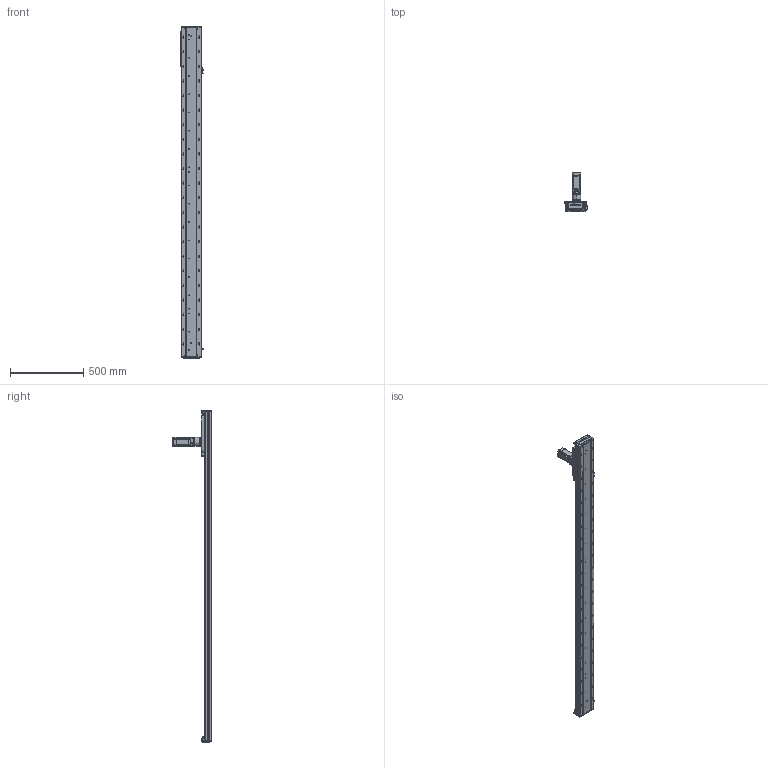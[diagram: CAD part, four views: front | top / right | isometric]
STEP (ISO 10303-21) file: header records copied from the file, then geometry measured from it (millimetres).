
FILE_DESCRIPTION (( 'STEP AP203' ), '1' );
FILE_NAME ('RY140-C-250-UK.SLDASM_1900.step', '2022-03-12T01:59:52', ( '' ), ( '' ), 'SwSTEP 2.0', 'SolidWorks 2016', '' );
FILE_SCHEMA (( 'CONFIG_CONTROL_DESIGN' ));
Length unit declared in the file: millimetre
Products named in the file (12): RY140-絳寢EGH15-300-MK_1900; 15; 覜茼ん672; RY140-喘沭賑輸; RY140-C-250-UK.SLDASM_1900; 絳寢賑輸EGH15; RY140-喘謫萇儂覃誹啣; 60ZDF珨撰俋倛芞T1 200W M4; RY140-300齿条模组型材底座_1900; RY120外置感应片(140共用）; RY140-喘沭裔啣; 140蚥薯蝶輸
Assembly tree (21 placements, depth 2):
  RY140-C-250-UK.SLDASM_1900
    RY140-300齿条模组型材底座_1900
    RY140-絳寢EGH15-300-MK_1900  x2
    絳寢賑輸EGH15  x6
    RY140-喘沭裔啣  x2
    覜茼ん672  x3
    RY140-喘沭賑輸
    RY120外置感应片(140共用）
    RY140-喘謫萇儂覃誹啣
    140蚥薯蝶輸  x2
    60ZDF珨撰俋倛芞T1 200W M4
    15
Bounding box: 153.7 x 263.5 x 2272 mm (x, y, z)
Volume: 7242085.1 mm3; surface area: 1976118.6 mm2
Topology: 21 solids, 21 shells, 3888 faces, 10438 edges, 6732 vertices
Faces by surface type: cylinder 1852, plane 1694, cone 296, bspline 46
Entity records: 90527 total; most frequent: CARTESIAN_POINT 20334, ORIENTED_EDGE 14354, DIRECTION 14299, EDGE_CURVE 7177, AXIS2_PLACEMENT_3D 5182, VERTEX_POINT 4701, VECTOR 3935, LINE 3935
